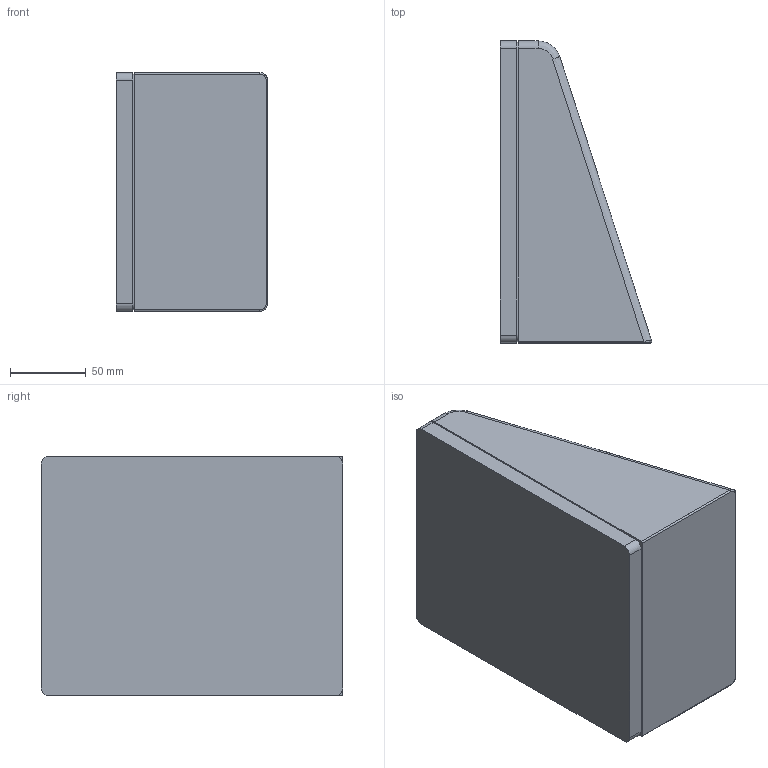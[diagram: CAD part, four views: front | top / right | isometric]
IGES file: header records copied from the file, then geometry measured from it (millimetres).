
Start section:  PTC IGES file: posco_500_boitier.igs
Global section: file name: posco_500_boitier.igs; native system: Pro/ENGINEER by Parametric Technology Corporation; preprocessor: 2007090; author: stag1rdm; organization: Unknown; date: 20080529.094228; units: millimetre
Bounding box: 99.73 x 198.9 x 157.5 mm (x, y, z)
Surface area: 114784.8 mm2 (no closed solid volume)
Topology: 0 solids, 0 shells, 63 faces, 320 edges, 320 vertices
Faces by surface type: bspline 33, revolution 30
